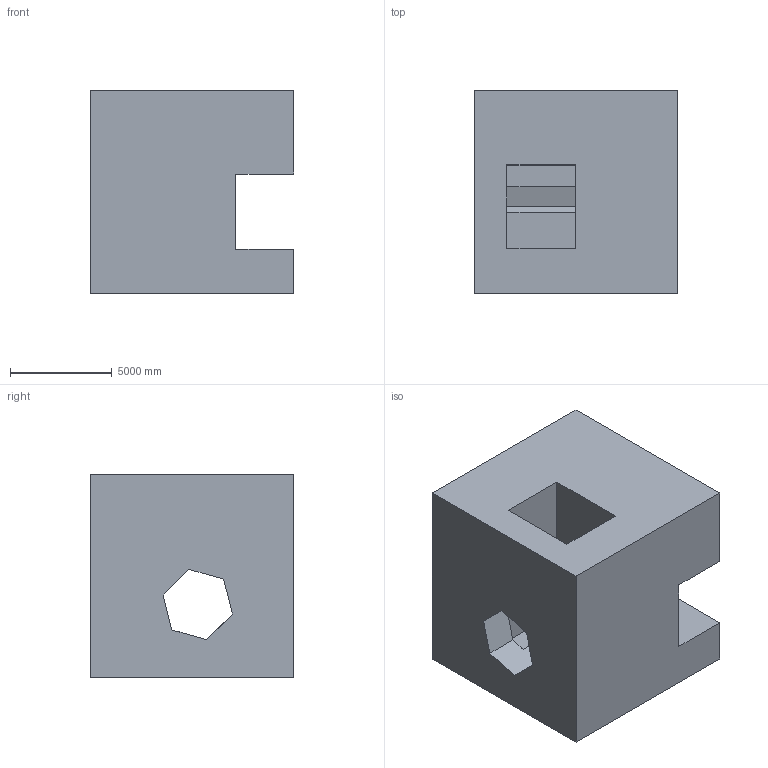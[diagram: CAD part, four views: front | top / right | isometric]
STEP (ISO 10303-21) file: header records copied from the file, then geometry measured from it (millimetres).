
FILE_DESCRIPTION (( 'STEP AP203' ), '1' );
FILE_NAME ('1257.STEP', '2022-08-18T13:25:39', ( 'user' ), ( '' ), 'SwSTEP 2.0', 'SolidWorks 2021', '' );
FILE_SCHEMA (( 'CONFIG_CONTROL_DESIGN' ));
Length unit declared in the file: centimetre
Products named in the file (1): 1257
Bounding box: 10000 x 10000 x 10000 mm (x, y, z)
Volume: 753268643357.7 mm3; surface area: 762243342.6 mm2
Topology: 1 solids, 1 shells, 28 faces, 84 edges, 56 vertices
Faces by surface type: plane 28
Entity records: 1013 total; most frequent: CARTESIAN_POINT 169, ORIENTED_EDGE 168, DIRECTION 142, LINE 84, EDGE_CURVE 84, VECTOR 84, VERTEX_POINT 56, EDGE_LOOP 30
